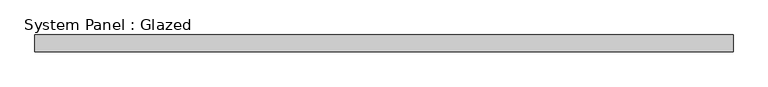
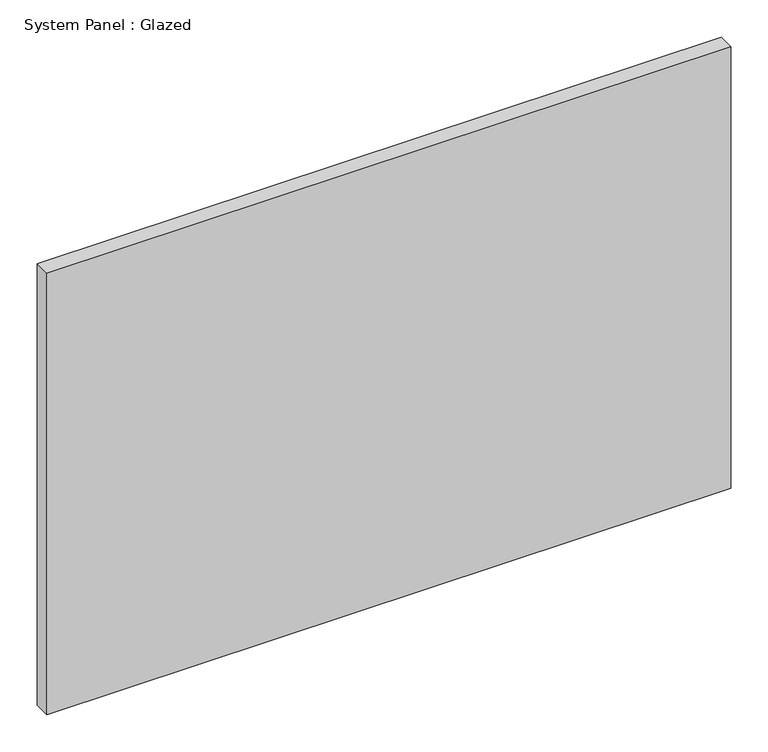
"""IFC4 building model written with IfcOpenShell, lengths in millimetres: plate geometry, System Panel : Glazed."""

from ifc_helpers import new_model, si_unit, origin, origin_with_axes, place, context, project, spatial, polyline, outline, extrude, source, transform, mapped, element, save


def system_panel_glazed_3129fd36(model_context):
    return source(origin(), model_context, "Body", "SweptSolid", [
        extrude(outline(polyline([(528.955, -44.45), (-528.955, -44.45), (-528.955, -19.05), (528.955, -19.05), (528.955, -44.45)])), origin_with_axes(), (0.0, 0.0, 1.0), 721.8891834),
    ])


if __name__ == "__main__":
    model = new_model("IFC4")
    model_context = context("Model", 3, world=origin())
    ifc_project = project(units=[si_unit("LENGTHUNIT", "METRE", prefix="MILLI")], contexts=[model_context])
    site = spatial("IfcSite", under=ifc_project)
    building = spatial("IfcBuilding", under=site)
    placement = place(None, origin())
    system_panel_glazed_shape = system_panel_glazed_3129fd36(model_context)
    element("IfcPlate", 1, ObjectType="System Panel : Glazed", at=placement, inside=building, context=model_context, shape_type="MappedRepresentation", body=[
        mapped(system_panel_glazed_shape, transform((0.0, 0.0, 0.0), x_axis=(1.0, 0.0, 0.0), y_axis=(0.0, 1.0, 0.0), z_axis=(0.0, 0.0, 1.0))),
    ])
    save(model, "model.ifc")
